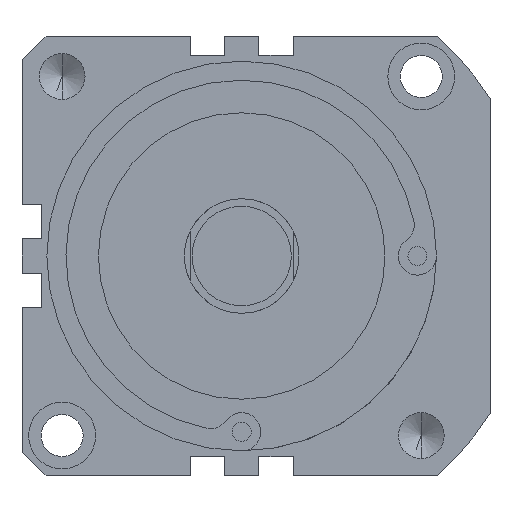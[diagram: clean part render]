
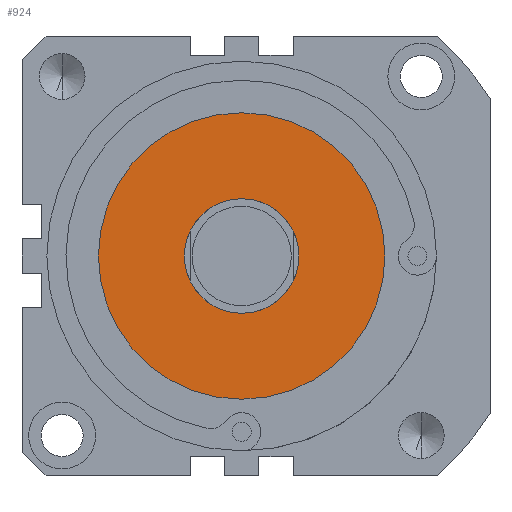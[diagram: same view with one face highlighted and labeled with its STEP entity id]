
A CAD part, front view. The second image highlights one B-rep face of the part: STEP entity #924.
In plain terms, the highlighted planar face has unit normal (0, -1, 0).
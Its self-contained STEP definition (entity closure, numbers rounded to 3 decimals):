
#142 = AXIS2_PLACEMENT_3D ( 'NONE', #1146, #4042, #197 ) ;
#197 = DIRECTION ( 'NONE',  ( 0., 0., 1. ) ) ;
#277 = VERTEX_POINT ( 'NONE', #2711 ) ;
#345 = CARTESIAN_POINT ( 'NONE',  ( 0., -73., 0. ) ) ;
#356 = ORIENTED_EDGE ( 'NONE', *, *, #3846, .F. ) ;
#405 = DIRECTION ( 'NONE',  ( 0., 0., 1. ) ) ;
#487 = CIRCLE ( 'NONE', #1245, 15. ) ;
#534 = EDGE_CURVE ( 'NONE', #1964, #2020, #2039, .T. ) ;
#571 = ORIENTED_EDGE ( 'NONE', *, *, #534, .F. ) ;
#672 = DIRECTION ( 'NONE',  ( 0., 1., 0. ) ) ;
#676 = CARTESIAN_POINT ( 'NONE',  ( 0., -73., 37.5 ) ) ;
#678 = AXIS2_PLACEMENT_3D ( 'NONE', #1895, #3526, #4177 ) ;
#703 = PLANE ( 'NONE',  #3752 ) ;
#801 = FACE_BOUND ( 'NONE', #2096, .T. ) ;
#924 = ADVANCED_FACE ( 'NONE', ( #801, #3867 ), #703, .F. ) ;
#1146 = CARTESIAN_POINT ( 'NONE',  ( 0., -73., 0. ) ) ;
#1245 = AXIS2_PLACEMENT_3D ( 'NONE', #2595, #1683, #405 ) ;
#1276 = CIRCLE ( 'NONE', #4149, 15. ) ;
#1610 = CARTESIAN_POINT ( 'NONE',  ( 0., -73., 0. ) ) ;
#1683 = DIRECTION ( 'NONE',  ( 0., 1., 0. ) ) ;
#1895 = CARTESIAN_POINT ( 'NONE',  ( 0., -73., 0. ) ) ;
#1964 = VERTEX_POINT ( 'NONE', #676 ) ;
#2002 = EDGE_LOOP ( 'NONE', ( #356, #571 ) ) ;
#2020 = VERTEX_POINT ( 'NONE', #3824 ) ;
#2039 = CIRCLE ( 'NONE', #678, 37.5 ) ;
#2096 = EDGE_LOOP ( 'NONE', ( #2288, #3158 ) ) ;
#2288 = ORIENTED_EDGE ( 'NONE', *, *, #3631, .T. ) ;
#2525 = CIRCLE ( 'NONE', #142, 37.5 ) ;
#2595 = CARTESIAN_POINT ( 'NONE',  ( 0., -73., 0. ) ) ;
#2608 = CARTESIAN_POINT ( 'NONE',  ( 0., -73., 15. ) ) ;
#2620 = DIRECTION ( 'NONE',  ( 0., 0., 1. ) ) ;
#2711 = CARTESIAN_POINT ( 'NONE',  ( 0., -73., -15. ) ) ;
#3158 = ORIENTED_EDGE ( 'NONE', *, *, #3581, .T. ) ;
#3259 = VERTEX_POINT ( 'NONE', #2608 ) ;
#3291 = DIRECTION ( 'NONE',  ( 0., 1., 0. ) ) ;
#3526 = DIRECTION ( 'NONE',  ( 0., 1., 0. ) ) ;
#3581 = EDGE_CURVE ( 'NONE', #277, #3259, #487, .T. ) ;
#3631 = EDGE_CURVE ( 'NONE', #3259, #277, #1276, .T. ) ;
#3752 = AXIS2_PLACEMENT_3D ( 'NONE', #1610, #672, #3880 ) ;
#3824 = CARTESIAN_POINT ( 'NONE',  ( 0., -73., -37.5 ) ) ;
#3846 = EDGE_CURVE ( 'NONE', #2020, #1964, #2525, .T. ) ;
#3867 = FACE_OUTER_BOUND ( 'NONE', #2002, .T. ) ;
#3880 = DIRECTION ( 'NONE',  ( 0., 0., 1. ) ) ;
#4042 = DIRECTION ( 'NONE',  ( 0., 1., 0. ) ) ;
#4149 = AXIS2_PLACEMENT_3D ( 'NONE', #345, #3291, #2620 ) ;
#4177 = DIRECTION ( 'NONE',  ( 0., 0., 1. ) ) ;
